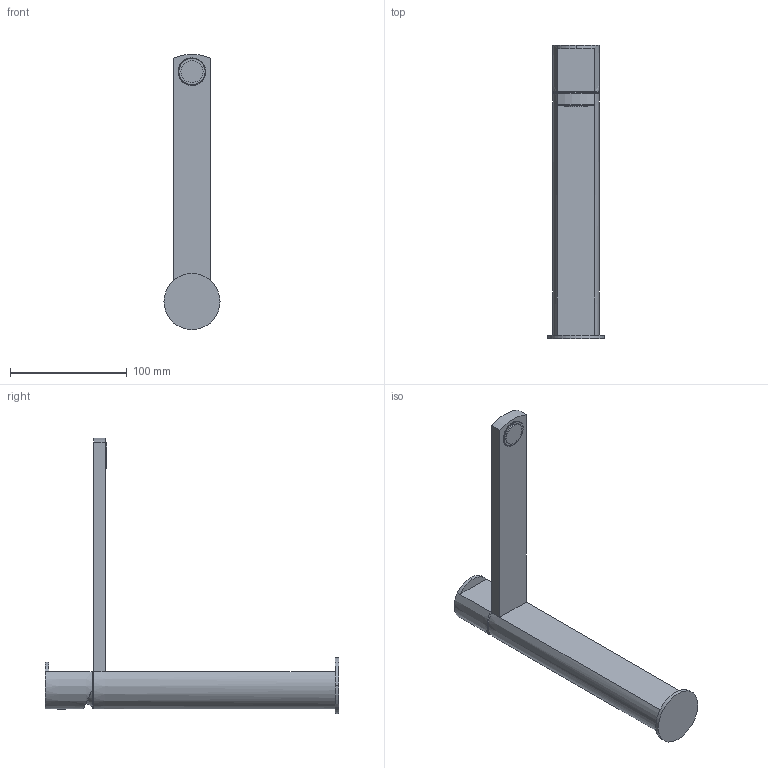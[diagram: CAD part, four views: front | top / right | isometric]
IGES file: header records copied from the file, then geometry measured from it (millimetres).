
Start section:  PTC IGES file: 89040a21_sw0002.igs
Global section: file name: 89040a21_sw0002.igs; native system: Creo Parametric by PTC Inc.; preprocessor: 2018100; author: carloff; organization: Unknown; date: 20200617.162000; units: millimetre
Bounding box: 48 x 251.3 x 235.7 mm (x, y, z)
Surface area: 55334.4 mm2 (no closed solid volume)
Topology: 0 solids, 0 shells, 66 faces, 322 edges, 320 vertices
Faces by surface type: revolution 35, bspline 31
